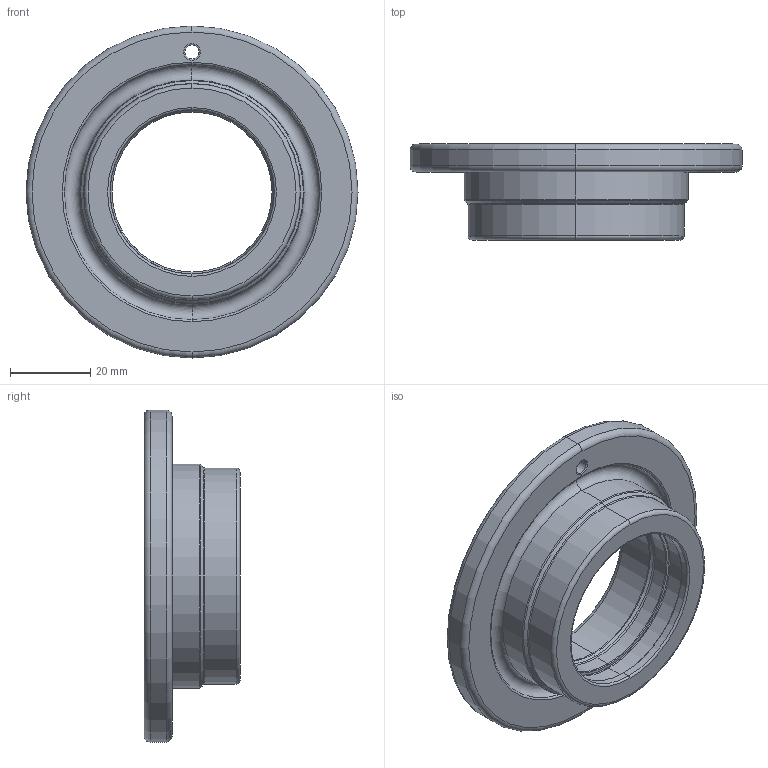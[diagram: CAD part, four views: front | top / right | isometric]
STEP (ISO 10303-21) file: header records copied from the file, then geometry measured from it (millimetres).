
FILE_DESCRIPTION(('CATIA V5 STEP Exchange','CAx-IF Rec.Pracs.--- Composite Materials ---3.4---2017-06-13'),'2;1');
FILE_NAME('C:\Users\PM610867\AppData\Local\ST-WORK_R32_PROD\Liasse-PDF\IEM_PEPSI_CEG_DEF_K_1229_234-BAGUE_EPAULE_INDUCTANCE_DOME_-A.stp','2025-02-14T10:16:09+00:00',('none'),('none'),'CATIA Version 5-6 Release 2022 SP2','CATIA V5 STEP AP203 v2','none');
FILE_SCHEMA(('CONFIG_CONTROL_DESIGN'));
Length unit declared in the file: millimetre
Products named in the file (1): IEM PEPSI CEG DEF K 1229 234
Bounding box: 83 x 24 x 83 mm (x, y, z)
Volume: 44614.7 mm3; surface area: 16176.1 mm2
Topology: 1 solids, 1 shells, 59 faces, 120 edges, 66 vertices
Faces by surface type: torus 34, cylinder 16, plane 5, cone 4
Entity records: 1377 total; most frequent: ORIENTED_EDGE 240, CARTESIAN_POINT 220, DIRECTION 186, AXIS2_PLACEMENT_3D 134, EDGE_CURVE 120, CIRCLE 100, EDGE_LOOP 66, VERTEX_POINT 66
